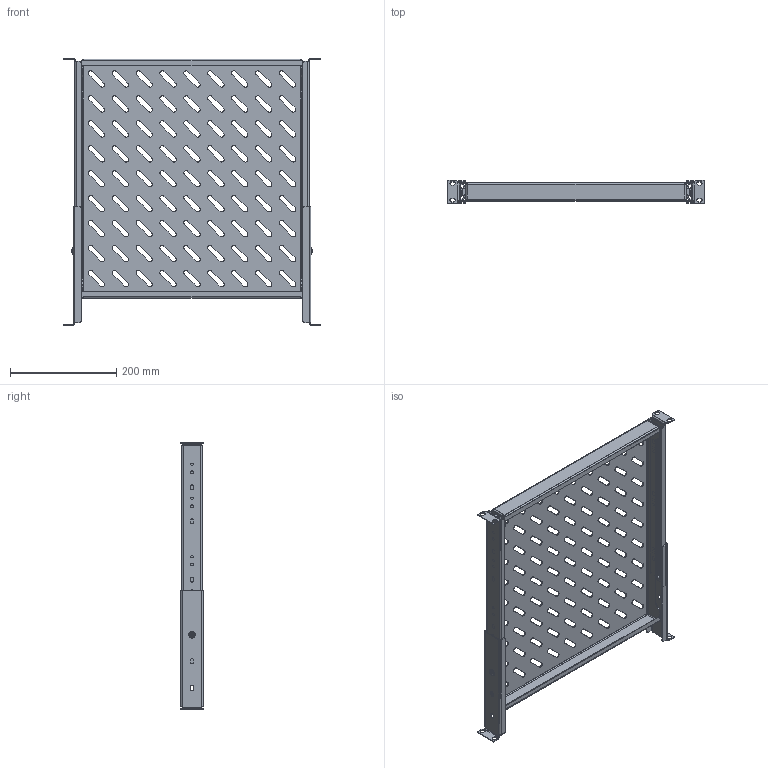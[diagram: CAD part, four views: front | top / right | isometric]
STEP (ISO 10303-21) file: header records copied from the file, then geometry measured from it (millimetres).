
FILE_DESCRIPTION (( 'STEP AP214' ), '1' );
FILE_NAME ('SH 48.45 IÌ Ïîëêà 19'''' âûäâèæíàÿ (550 ìì.).STEP', '2022-08-09T14:00:25', ( '' ), ( '' ), 'SwSTEP 2.0', 'SolidWorks 2018', '' );
FILE_SCHEMA (( 'AUTOMOTIVE_DESIGN' ));
Length unit declared in the file: millimetre
Products named in the file (1): SH 48.45 IÌ Ïîëêà 19'''' âûäâèæíàÿ (550 ìì.)
Bounding box: 482.6 x 43.6 x 502.8 mm (x, y, z)
Volume: 492595.3 mm3; surface area: 774862.1 mm2
Topology: 12 solids, 12 shells, 1211 faces, 3151 edges, 1952 vertices
Faces by surface type: plane 660, cylinder 527, cone 8, torus 8, sphere 4, bspline 4
Entity records: 50973 total; most frequent: DIRECTION 6647, CARTESIAN_POINT 6539, ORIENTED_EDGE 6294, EDGE_CURVE 3147, AXIS2_PLACEMENT_3D 2300, VECTOR 2047, LINE 2047, VERTEX_POINT 1952
